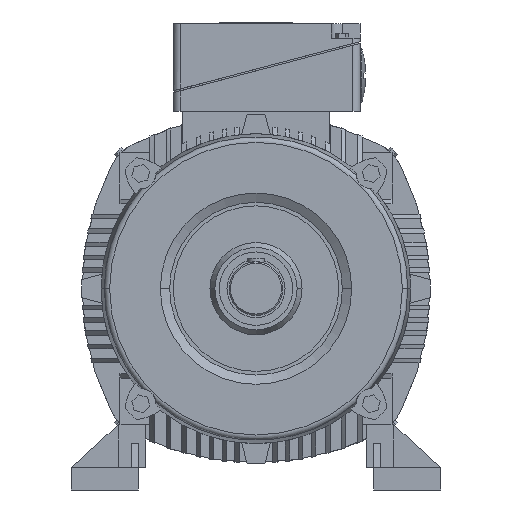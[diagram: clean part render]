
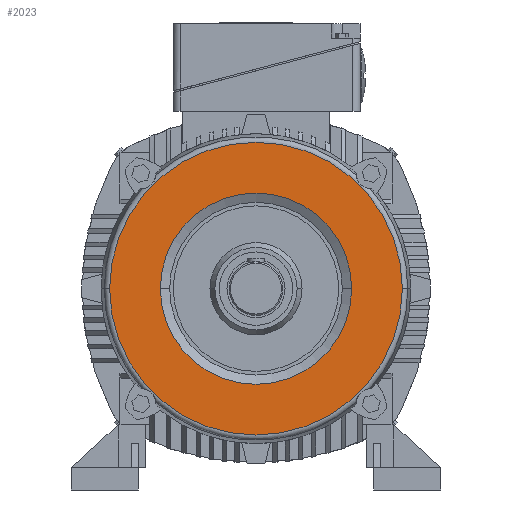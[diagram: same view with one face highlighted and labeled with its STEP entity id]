
A CAD part, front view. The second image highlights one B-rep face of the part: STEP entity #2023.
In plain terms, the highlighted planar face has unit normal (0, -1, 0).
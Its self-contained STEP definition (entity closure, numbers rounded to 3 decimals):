
#2023=ADVANCED_FACE('',(#4210,#4211),#4212,.T.);
#4210=FACE_BOUND('',#6571,.T.);
#4211=FACE_OUTER_BOUND('',#6572,.T.);
#4212=PLANE('',#6573);
#6571=EDGE_LOOP('',(#13069,#13070));
#6572=EDGE_LOOP('',(#13071,#13072));
#6573=AXIS2_PLACEMENT_3D('',#13073,#13074,#13075);
#13069=ORIENTED_EDGE('',*,*,#14676,.T.);
#13070=ORIENTED_EDGE('',*,*,#16892,.T.);
#13071=ORIENTED_EDGE('',*,*,#14728,.T.);
#13072=ORIENTED_EDGE('',*,*,#16783,.T.);
#13073=CARTESIAN_POINT('',(81.783,-47.0,0.0));
#13074=DIRECTION('',(0.,-1.0,0.0));
#13075=DIRECTION('',(1.0,0.,0.0));
#14676=EDGE_CURVE('',#17707,#17704,#17708,.T.);
#14728=EDGE_CURVE('',#17788,#17794,#17796,.T.);
#16783=EDGE_CURVE('',#17794,#17788,#20875,.T.);
#16892=EDGE_CURVE('',#17704,#17707,#21015,.T.);
#17704=VERTEX_POINT('',#22398);
#17707=VERTEX_POINT('',#22402);
#17708=CIRCLE('',#22403,106.892);
#17788=VERTEX_POINT('',#22608);
#17794=VERTEX_POINT('',#22664);
#17796=CIRCLE('',#22666,163.565);
#20875=CIRCLE('',#32122,163.565);
#21015=CIRCLE('',#32381,106.892);
#22398=CARTESIAN_POINT('',(106.892,-47.0,0.));
#22402=CARTESIAN_POINT('',(-106.892,-47.0,0.));
#22403=AXIS2_PLACEMENT_3D('',#33888,#33889,#33890);
#22608=CARTESIAN_POINT('',(163.565,-47.0,0.0));
#22664=CARTESIAN_POINT('',(-163.565,-47.0,0.));
#22666=AXIS2_PLACEMENT_3D('',#33960,#33961,#33962);
#32122=AXIS2_PLACEMENT_3D('',#35788,#35789,#35790);
#32381=AXIS2_PLACEMENT_3D('',#35914,#35915,#35916);
#33888=CARTESIAN_POINT('',(0.0,-47.0,0.0));
#33889=DIRECTION('',(0.,1.0,0.0));
#33890=DIRECTION('',(1.0,0.,0.0));
#33960=CARTESIAN_POINT('',(0.0,-47.0,0.0));
#33961=DIRECTION('',(0.0,-1.0,0.0));
#33962=DIRECTION('',(1.0,0.0,0.0));
#35788=CARTESIAN_POINT('',(0.0,-47.0,0.0));
#35789=DIRECTION('',(0.0,-1.0,0.0));
#35790=DIRECTION('',(1.0,0.0,0.0));
#35914=CARTESIAN_POINT('',(0.0,-47.0,0.0));
#35915=DIRECTION('',(0.,1.0,0.0));
#35916=DIRECTION('',(1.0,0.,0.0));
